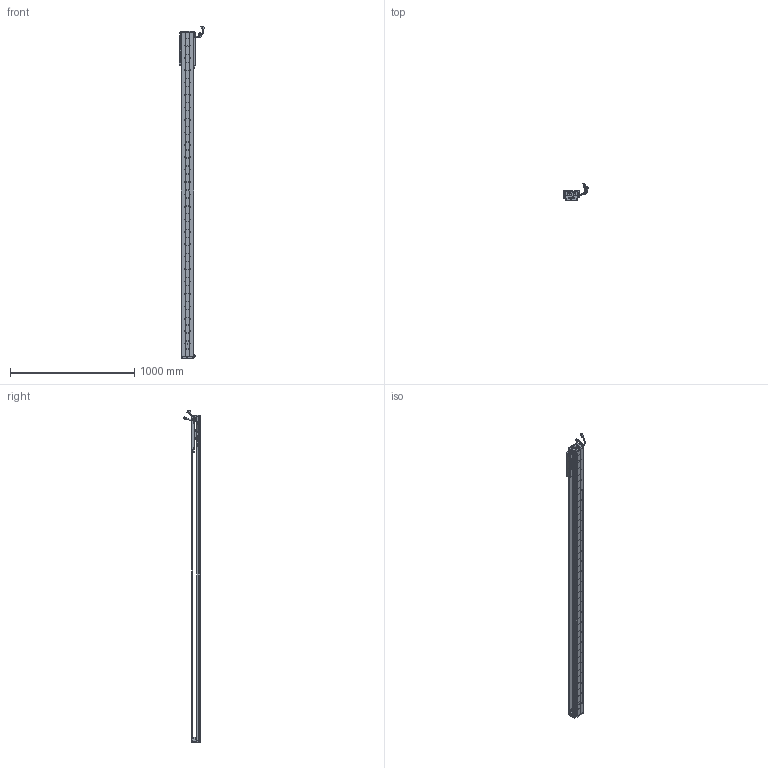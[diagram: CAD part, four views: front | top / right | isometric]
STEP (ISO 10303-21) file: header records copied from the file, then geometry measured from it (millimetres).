
FILE_DESCRIPTION (( 'STEP AP203' ), '1' );
FILE_NAME ('Z3-RY100D-1-L500-B-K.SLDASM_2300.step', '2021-05-17T02:52:08', ( '盈信电脑' ), ( '东莞市道滘镇水果街19号' ), 'SwSTEP 2.0', 'SolidWorks 2016', '' );
FILE_SCHEMA (( 'CONFIG_CONTROL_DESIGN' ));
Length unit declared in the file: millimetre
Products named in the file (36): Z3-RY100D-500-倰第菁釱_2300; LABEL-Part-1; Z3-RY100铝滑块（21款）; SCREW-M1.7-1; SCREW-M1.7; LABEL; 榋妏寠巭燃_暯_M2_2; HARNESS-Part-1; HOLDER0; 140蚥薯蝶輸; Z-RY100D詩湍奻揤裔; Z3-RY100D-1-L500-B-K.SLDASM_2300; HARNESS; COVER-Part-1; 100-Z-臏賑輸盄裔(21遴); SCREW-M1.6-1; SCREW-M1.6-2; SCREW-M1.6; HARNESS-Part-2; 覜茼ん672; SCALE; Z-RY100D覜茼んえ; 080黍杅芛假蚾釱21遴; COVER; PSLH080_PSLF2; SEAL; Z-100詩湍傷裔啣; Z-RY100D詩湍狟揤裔; SHIELDPLATE; 140雄赽晤鎢ん堤盄; SCREW-M1.6-3; SEAL-Part-1; SCALE-Part-1; Z3-RY100-L500詩湍90mm遵_2300; SCALE-Part-2; PBU_SHEET
Assembly tree (43 placements, depth 4):
  Z3-RY100D-1-L500-B-K.SLDASM_2300
    Z3-RY100D-500-倰第菁釱_2300
    Z3-RY100铝滑块（21款）
    PSLH080_PSLF2
      SCALE
        SCALE-Part-1
        SCALE-Part-2
      HARNESS
        HARNESS-Part-1
        HARNESS-Part-2
      LABEL
        LABEL-Part-1
      COVER
        COVER-Part-1
      SEAL
        SEAL-Part-1
      榋妏寠巭燃_暯_M2_2
      SHIELDPLATE
      SCREW-M1.7
      SCREW-M1.7-1
      PBU_SHEET
      SCREW-M1.6
      SCREW-M1.6-1
      SCREW-M1.6-2
      SCREW-M1.6-3
      HOLDER0
    080黍杅芛假蚾釱21遴
    Z-100詩湍傷裔啣  x2
    140蚥薯蝶輸  x2
    覜茼ん672  x3
    Z-RY100D覜茼んえ  x3
    100-Z-臏賑輸盄裔(21遴)
    140雄赽晤鎢ん堤盄
    Z3-RY100-L500詩湍90mm遵_2300
    Z-RY100D詩湍狟揤裔  x2
    Z-RY100D詩湍奻揤裔  x2
Bounding box: 205.79 x 136.11 x 2670.43 mm (x, y, z)
Volume: 4897527.3 mm3; surface area: 1926906.9 mm2
Topology: 38 solids, 38 shells, 2989 faces, 8149 edges, 5200 vertices
Faces by surface type: cylinder 1462, plane 1179, cone 226, torus 69, bspline 53
Entity records: 86359 total; most frequent: CARTESIAN_POINT 18085, DIRECTION 13919, ORIENTED_EDGE 13178, EDGE_CURVE 6589, AXIS2_PLACEMENT_3D 5230, VERTEX_POINT 4268, VECTOR 3459, LINE 3459
